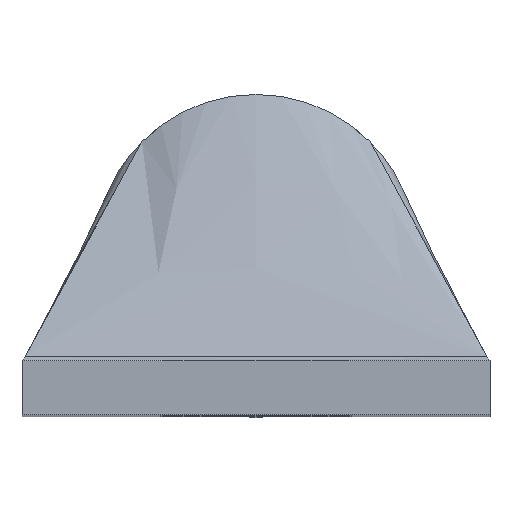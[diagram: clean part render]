
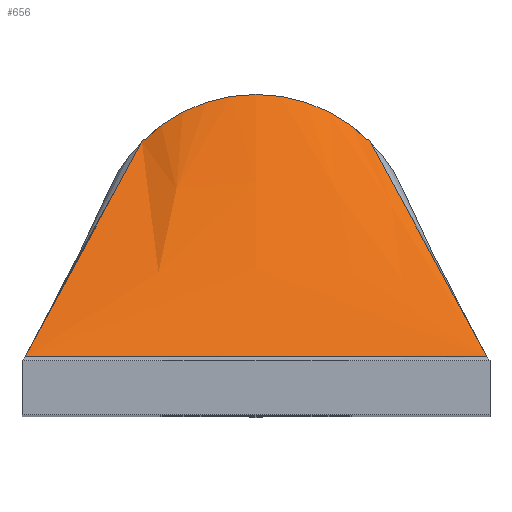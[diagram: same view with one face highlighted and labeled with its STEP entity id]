
A CAD part, top view. The second image highlights one B-rep face of the part: STEP entity #656.
In plain terms, the highlighted free-form (B-spline) face has degree [3, 3] with [9, 4] control points.
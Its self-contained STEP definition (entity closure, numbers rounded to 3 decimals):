
#201=CARTESIAN_POINT('',(-17.285,4.508,-75.993));
#202=CARTESIAN_POINT('',(-14.655,4.533,-75.991));
#203=CARTESIAN_POINT('',(-9.176,4.571,-75.986));
#204=CARTESIAN_POINT('',(-0.217,4.592,
-75.981));
#205=CARTESIAN_POINT('',(9.175,4.572,-75.985));
#206=CARTESIAN_POINT('',(14.654,4.533,-75.991));
#207=CARTESIAN_POINT('',(17.285,4.508,-75.993));
#209=DIRECTION('',(0.41,0.755,-0.511));
#210=VECTOR('',#209,21.326);
#211=CARTESIAN_POINT('',(-17.285,4.508,-75.993));
#212=LINE('',#211,#210);
#218=CARTESIAN_POINT('',(0.,12.078,-86.893));
#219=DIRECTION('',(0.,0.,1.));
#220=DIRECTION('',(0.,1.,0.));
#221=AXIS2_PLACEMENT_3D('',#218,#219,#220);
#237=DIRECTION('',(-0.41,0.755,-0.511));
#238=VECTOR('',#237,21.326);
#239=CARTESIAN_POINT('',(17.285,4.508,-75.993));
#240=LINE('',#239,#238);
#268=CARTESIAN_POINT('',(0.,12.078,-86.893));
#269=DIRECTION('',(0.,0.,1.));
#270=DIRECTION('',(0.707,0.707,0.));
#271=AXIS2_PLACEMENT_3D('',#268,#269,#270);
#359=CARTESIAN_POINT('',(-8.54,20.618,-86.893));
#361=VERTEX_POINT('',#359);
#363=CARTESIAN_POINT('',(8.54,20.618,-86.893));
#364=CARTESIAN_POINT('',(0.,24.155,-86.893));
#365=VERTEX_POINT('',#363);
#366=VERTEX_POINT('',#364);
#371=VERTEX_POINT('',#201);
#372=VERTEX_POINT('',#207);
#609=CARTESIAN_POINT('',(-18.166,4.169,-75.764));
#610=CARTESIAN_POINT('',(-14.984,9.667,-79.547));
#611=CARTESIAN_POINT('',(-11.803,15.165,-83.329));
#612=CARTESIAN_POINT('',(-8.621,20.663,-87.112));
#613=CARTESIAN_POINT('',(-17.933,4.17,-75.764));
#614=CARTESIAN_POINT('',(-14.801,9.699,-79.547));
#615=CARTESIAN_POINT('',(-11.669,15.228,-83.329));
#616=CARTESIAN_POINT('',(-8.537,20.757,-87.112));
#617=CARTESIAN_POINT('',(-14.791,4.178,-75.764));
#618=CARTESIAN_POINT('',(-12.323,10.121,-79.547));
#619=CARTESIAN_POINT('',(-9.855,16.064,-83.329));
#620=CARTESIAN_POINT('',(-7.387,22.007,-87.112));
#621=CARTESIAN_POINT('',(-8.737,4.19,-75.764));
#622=CARTESIAN_POINT('',(-7.379,10.762,-79.547));
#623=CARTESIAN_POINT('',(-6.022,17.334,-83.329));
#624=CARTESIAN_POINT('',(-4.664,23.906,-87.112));
#625=CARTESIAN_POINT('',(0.,4.196,-75.764));
#626=CARTESIAN_POINT('',(0.,11.086,
-79.547));
#627=CARTESIAN_POINT('',(0.,17.977,
-83.329));
#628=CARTESIAN_POINT('',(0.,24.867,
-87.112));
#629=CARTESIAN_POINT('',(8.737,4.19,-75.764));
#630=CARTESIAN_POINT('',(7.379,10.762,-79.547));
#631=CARTESIAN_POINT('',(6.022,17.334,-83.329));
#632=CARTESIAN_POINT('',(4.664,23.906,-87.112));
#633=CARTESIAN_POINT('',(14.791,4.178,-75.764));
#634=CARTESIAN_POINT('',(12.323,10.121,-79.547));
#635=CARTESIAN_POINT('',(9.855,16.064,-83.329));
#636=CARTESIAN_POINT('',(7.387,22.007,-87.112));
#637=CARTESIAN_POINT('',(17.933,4.17,-75.764));
#638=CARTESIAN_POINT('',(14.801,9.699,-79.547));
#639=CARTESIAN_POINT('',(11.669,15.228,-83.329));
#640=CARTESIAN_POINT('',(8.537,20.757,-87.112));
#641=CARTESIAN_POINT('',(18.166,4.169,-75.764));
#642=CARTESIAN_POINT('',(14.984,9.667,-79.547));
#643=CARTESIAN_POINT('',(11.803,15.165,-83.329));
#644=CARTESIAN_POINT('',(8.621,20.663,-87.112));
#645=B_SPLINE_SURFACE_WITH_KNOTS('',3,3,((#609,#610,#611,#612),(#613,#614,#615,
#616),(#617,#618,#619,#620),(#621,#622,#623,#624),(#625,#626,#627,#628),(#629,
#630,#631,#632),(#633,#634,#635,#636),(#637,#638,#639,#640),(#641,#642,#643,
#644)),.UNSPECIFIED.,.F.,.F.,.F.,(4,1,1,1,1,1,4),(4,4),(-0.02,0.,
0.25,0.5,0.75,1.,1.02),(0.006,1.019),
.UNSPECIFIED.);
#646=ORIENTED_EDGE('',*,*,#535,.F.);
#647=ORIENTED_EDGE('',*,*,#596,.T.);
#649=ORIENTED_EDGE('',*,*,#648,.F.);
#651=ORIENTED_EDGE('',*,*,#650,.F.);
#653=ORIENTED_EDGE('',*,*,#652,.F.);
#654=EDGE_LOOP('',(#646,#647,#649,#651,#653));
#655=FACE_OUTER_BOUND('',#654,.F.);
#656=ADVANCED_FACE('',(#655),#645,.T.);
#208=B_SPLINE_CURVE_WITH_KNOTS('',3,(#201,#202,#203,#204,#205,#206,#207),
.UNSPECIFIED.,.F.,.F.,(4,1,1,1,4),(0.,0.25,0.5,0.75,1.),
.UNSPECIFIED.);
#222=CIRCLE('',#221,12.078);
#272=CIRCLE('',#271,12.078);
#535=EDGE_CURVE('',#371,#372,#208,.T.);
#596=EDGE_CURVE('',#371,#361,#212,.T.);
#648=EDGE_CURVE('',#366,#361,#222,.T.);
#650=EDGE_CURVE('',#365,#366,#272,.T.);
#652=EDGE_CURVE('',#372,#365,#240,.T.);
